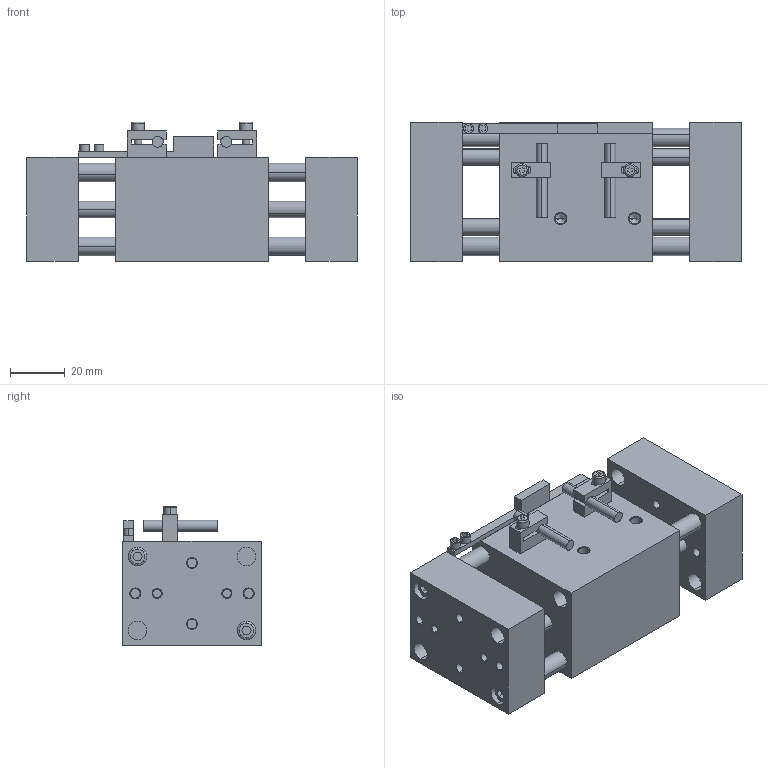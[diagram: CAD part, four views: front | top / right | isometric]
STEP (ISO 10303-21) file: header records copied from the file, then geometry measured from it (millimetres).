
FILE_DESCRIPTION (( 'STEP AP203' ), '1' );
FILE_NAME ('AGW-375-1 OPEN in IN.STEP', '2014-11-03T15:38:20', ( 'setup' ), ( '' ), 'SwSTEP 2.0', 'SolidWorks 2013', '' );
FILE_SCHEMA (( 'CONFIG_CONTROL_DESIGN' ));
Length unit declared in the file: inch
Products named in the file (8): AGW-375-1 GUIDE ROD; AGW-375-1 OPEN in IN; AGW-375-1  SENSOR FLAG; AGW-375-1 BODY; AGW-375-1 TOOL PLATE; AGW-375-1 SENSOR BLOCK; AGW-375-1 SENSOR; AGW-375-1 PROD
Assembly tree (16 placements, depth 2):
  AGW-375-1 OPEN in IN
    AGW-375-1 BODY
    AGW-375-1 TOOL PLATE  x2
    AGW-375-1 SENSOR BLOCK  x2
    AGW-375-1 SENSOR  x2
    AGW-375-1 PROD  x4
    AGW-375-1 GUIDE ROD  x4
    AGW-375-1  SENSOR FLAG
Bounding box: 120.4 x 50.8 x 50.8 mm (x, y, z)
Volume: 176713.5 mm3; surface area: 53345.9 mm2
Topology: 20 solids, 20 shells, 378 faces, 904 edges, 562 vertices
Faces by surface type: plane 164, cylinder 138, cone 64, torus 12
Entity records: 8220 total; most frequent: DIRECTION 1304, CARTESIAN_POINT 1299, ORIENTED_EDGE 1128, EDGE_CURVE 564, AXIS2_PLACEMENT_3D 485, VERTEX_POINT 356, LINE 334, VECTOR 334
